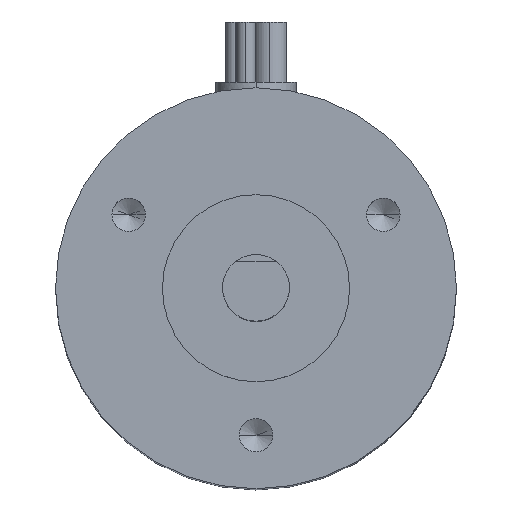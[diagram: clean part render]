
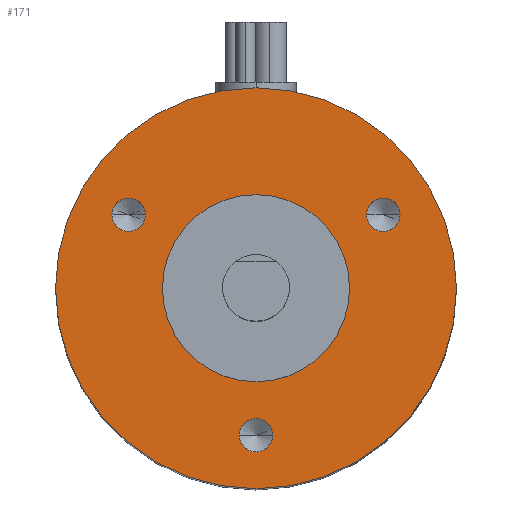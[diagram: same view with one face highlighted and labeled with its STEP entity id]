
A CAD part, top view. The second image highlights one B-rep face of the part: STEP entity #171.
In plain terms, the highlighted planar face has unit normal (0, 0, 1).
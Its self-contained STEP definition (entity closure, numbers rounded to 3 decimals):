
#5 = CARTESIAN_POINT ( 'NONE',  ( 0., 0., 0. ) ) ;
#8 = CARTESIAN_POINT ( 'NONE',  ( -8.276, 5.5, 0. ) ) ;
#11 = DIRECTION ( 'NONE',  ( 0., 0., 1. ) ) ;
#32 = AXIS2_PLACEMENT_3D ( 'NONE', #1121, #440, #1037 ) ;
#39 = ORIENTED_EDGE ( 'NONE', *, *, #981, .F. ) ;
#63 = VERTEX_POINT ( 'NONE', #1000 ) ;
#64 = CARTESIAN_POINT ( 'NONE',  ( 10.776, 5.5, 0. ) ) ;
#68 = CARTESIAN_POINT ( 'NONE',  ( 8.276, 5.5, 0. ) ) ;
#78 = ORIENTED_EDGE ( 'NONE', *, *, #623, .F. ) ;
#80 = DIRECTION ( 'NONE',  ( 0., 0., 1. ) ) ;
#82 = VERTEX_POINT ( 'NONE', #1090 ) ;
#83 = DIRECTION ( 'NONE',  ( 0., 0., 1. ) ) ;
#90 = AXIS2_PLACEMENT_3D ( 'NONE', #875, #11, #449 ) ;
#106 = CIRCLE ( 'NONE', #1027, 1.25 ) ;
#118 = CARTESIAN_POINT ( 'NONE',  ( 0., 0., 0. ) ) ;
#127 = CARTESIAN_POINT ( 'NONE',  ( -1.25, -11., 0. ) ) ;
#131 = CARTESIAN_POINT ( 'NONE',  ( 0., 0., 0. ) ) ;
#149 = VERTEX_POINT ( 'NONE', #567 ) ;
#151 = AXIS2_PLACEMENT_3D ( 'NONE', #1020, #861, #595 ) ;
#164 = DIRECTION ( 'NONE',  ( 0., 0., 1. ) ) ;
#170 = DIRECTION ( 'NONE',  ( 0., 0., 1. ) ) ;
#171 = ADVANCED_FACE ( 'NONE', ( #949, #419, #179, #340, #684 ), #507, .T. ) ;
#175 = EDGE_CURVE ( 'NONE', #82, #63, #510, .T. ) ;
#178 = CARTESIAN_POINT ( 'NONE',  ( 9.526, 5.5, 0. ) ) ;
#179 = FACE_BOUND ( 'NONE', #1075, .T. ) ;
#208 = EDGE_LOOP ( 'NONE', ( #932, #438 ) ) ;
#224 = EDGE_CURVE ( 'NONE', #1085, #374, #1033, .T. ) ;
#250 = AXIS2_PLACEMENT_3D ( 'NONE', #812, #80, #1032 ) ;
#256 = EDGE_LOOP ( 'NONE', ( #761, #78 ) ) ;
#275 = DIRECTION ( 'NONE',  ( 1., 0., 0. ) ) ;
#308 = EDGE_CURVE ( 'NONE', #374, #1085, #482, .T. ) ;
#323 = EDGE_CURVE ( 'NONE', #1058, #842, #736, .T. ) ;
#329 = CIRCLE ( 'NONE', #805, 1.25 ) ;
#338 = CARTESIAN_POINT ( 'NONE',  ( 1.25, -11., 0. ) ) ;
#340 = FACE_BOUND ( 'NONE', #586, .T. ) ;
#374 = VERTEX_POINT ( 'NONE', #1109 ) ;
#400 = DIRECTION ( 'NONE',  ( 0., 0., 1. ) ) ;
#403 = AXIS2_PLACEMENT_3D ( 'NONE', #118, #995, #475 ) ;
#419 = FACE_BOUND ( 'NONE', #256, .T. ) ;
#438 = ORIENTED_EDGE ( 'NONE', *, *, #308, .T. ) ;
#440 = DIRECTION ( 'NONE',  ( 0., 0., 1. ) ) ;
#442 = DIRECTION ( 'NONE',  ( 1., 0., 0. ) ) ;
#449 = DIRECTION ( 'NONE',  ( 1., 0., 0. ) ) ;
#475 = DIRECTION ( 'NONE',  ( 1., 0., 0. ) ) ;
#476 = DIRECTION ( 'NONE',  ( 1., 0., 0. ) ) ;
#482 = CIRCLE ( 'NONE', #596, 15. ) ;
#507 = PLANE ( 'NONE',  #792 ) ;
#510 = CIRCLE ( 'NONE', #976, 7. ) ;
#521 = EDGE_CURVE ( 'NONE', #546, #149, #917, .T. ) ;
#530 = DIRECTION ( 'NONE',  ( 1., 0., 0. ) ) ;
#532 = DIRECTION ( 'NONE',  ( 1., 0., 0. ) ) ;
#546 = VERTEX_POINT ( 'NONE', #8 ) ;
#565 = EDGE_CURVE ( 'NONE', #924, #814, #329, .T. ) ;
#567 = CARTESIAN_POINT ( 'NONE',  ( -10.776, 5.5, 0. ) ) ;
#574 = ORIENTED_EDGE ( 'NONE', *, *, #997, .F. ) ;
#586 = EDGE_LOOP ( 'NONE', ( #895, #789 ) ) ;
#595 = DIRECTION ( 'NONE',  ( 1., 0., 0. ) ) ;
#596 = AXIS2_PLACEMENT_3D ( 'NONE', #131, #400, #476 ) ;
#601 = AXIS2_PLACEMENT_3D ( 'NONE', #687, #83, #532 ) ;
#616 = CARTESIAN_POINT ( 'NONE',  ( -9.526, 5.5, 0. ) ) ;
#623 = EDGE_CURVE ( 'NONE', #149, #546, #106, .T. ) ;
#651 = CARTESIAN_POINT ( 'NONE',  ( 15., 0., 0. ) ) ;
#653 = ORIENTED_EDGE ( 'NONE', *, *, #323, .F. ) ;
#684 = FACE_OUTER_BOUND ( 'NONE', #208, .T. ) ;
#687 = CARTESIAN_POINT ( 'NONE',  ( 0., -11., 0. ) ) ;
#702 = DIRECTION ( 'NONE',  ( 0., 0., 1. ) ) ;
#707 = DIRECTION ( 'NONE',  ( 1., 0., 0. ) ) ;
#736 = CIRCLE ( 'NONE', #250, 1.25 ) ;
#740 = CIRCLE ( 'NONE', #601, 1.25 ) ;
#754 = EDGE_CURVE ( 'NONE', #63, #82, #774, .T. ) ;
#761 = ORIENTED_EDGE ( 'NONE', *, *, #521, .F. ) ;
#763 = CARTESIAN_POINT ( 'NONE',  ( 0., 0., 0. ) ) ;
#774 = CIRCLE ( 'NONE', #403, 7. ) ;
#789 = ORIENTED_EDGE ( 'NONE', *, *, #175, .F. ) ;
#791 = EDGE_LOOP ( 'NONE', ( #39, #653 ) ) ;
#792 = AXIS2_PLACEMENT_3D ( 'NONE', #5, #170, #530 ) ;
#805 = AXIS2_PLACEMENT_3D ( 'NONE', #178, #702, #707 ) ;
#812 = CARTESIAN_POINT ( 'NONE',  ( 0., -11., 0. ) ) ;
#814 = VERTEX_POINT ( 'NONE', #68 ) ;
#842 = VERTEX_POINT ( 'NONE', #338 ) ;
#861 = DIRECTION ( 'NONE',  ( 0., 0., 1. ) ) ;
#866 = CIRCLE ( 'NONE', #90, 1.25 ) ;
#875 = CARTESIAN_POINT ( 'NONE',  ( 9.526, 5.5, 0. ) ) ;
#895 = ORIENTED_EDGE ( 'NONE', *, *, #754, .F. ) ;
#917 = CIRCLE ( 'NONE', #32, 1.25 ) ;
#924 = VERTEX_POINT ( 'NONE', #64 ) ;
#932 = ORIENTED_EDGE ( 'NONE', *, *, #224, .T. ) ;
#949 = FACE_BOUND ( 'NONE', #791, .T. ) ;
#976 = AXIS2_PLACEMENT_3D ( 'NONE', #763, #164, #442 ) ;
#981 = EDGE_CURVE ( 'NONE', #842, #1058, #740, .T. ) ;
#995 = DIRECTION ( 'NONE',  ( 0., 0., 1. ) ) ;
#997 = EDGE_CURVE ( 'NONE', #814, #924, #866, .T. ) ;
#1000 = CARTESIAN_POINT ( 'NONE',  ( -7., 0., 0. ) ) ;
#1020 = CARTESIAN_POINT ( 'NONE',  ( 0., 0., 0. ) ) ;
#1027 = AXIS2_PLACEMENT_3D ( 'NONE', #616, #1046, #275 ) ;
#1032 = DIRECTION ( 'NONE',  ( 1., 0., 0. ) ) ;
#1033 = CIRCLE ( 'NONE', #151, 15. ) ;
#1037 = DIRECTION ( 'NONE',  ( 1., 0., 0. ) ) ;
#1046 = DIRECTION ( 'NONE',  ( 0., 0., 1. ) ) ;
#1051 = ORIENTED_EDGE ( 'NONE', *, *, #565, .F. ) ;
#1058 = VERTEX_POINT ( 'NONE', #127 ) ;
#1075 = EDGE_LOOP ( 'NONE', ( #1051, #574 ) ) ;
#1085 = VERTEX_POINT ( 'NONE', #651 ) ;
#1090 = CARTESIAN_POINT ( 'NONE',  ( 7., 0., 0. ) ) ;
#1109 = CARTESIAN_POINT ( 'NONE',  ( -15., 0., 0. ) ) ;
#1121 = CARTESIAN_POINT ( 'NONE',  ( -9.526, 5.5, 0. ) ) ;
